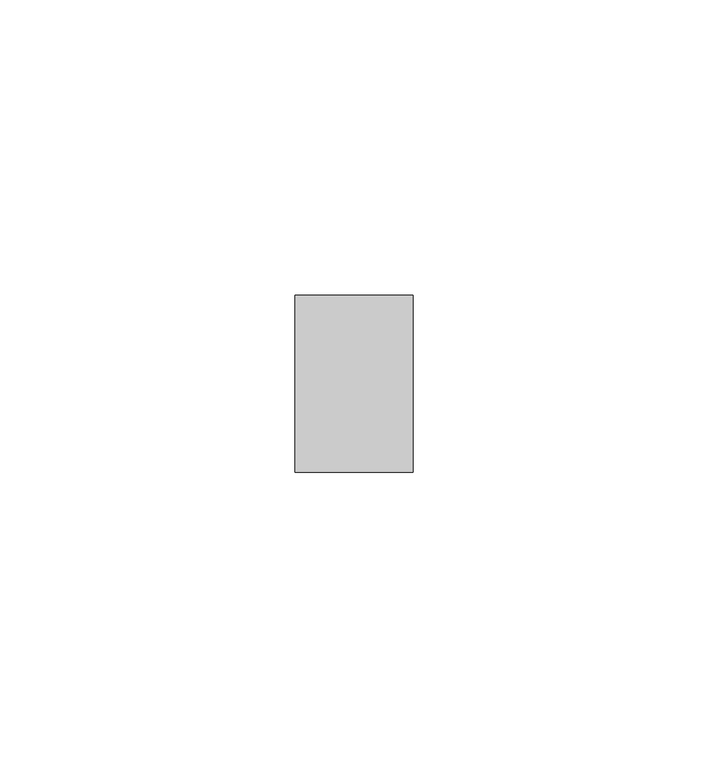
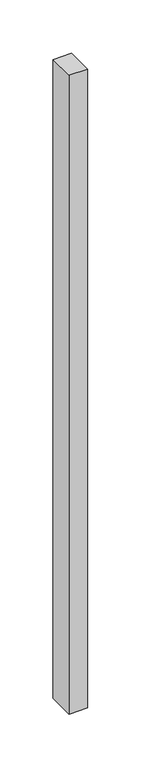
"""IFC4 building model written with IfcOpenShell, lengths in millimetres: member geometry, Прямоугольный импост : Квадрат 10 мм - Зазор между навесными плитами."""

from ifc_helpers import new_model, si_unit, frame, origin, place, context, project, spatial, polyline, outline, extrude, source, transform, mapped, element, save


def member_b21f5c25(model_context):
    return source(origin(), model_context, "Body", "SweptSolid", [
        extrude(outline(polyline([(0.0, 15.0), (0.0, -15.0), (-20.0, -15.0), (-20.0, 15.0), (0.0, 15.0)])), frame((0.0, 0.0, -730.4633312), z_axis=(0.0, 0.0, 1.0), x_axis=(1.0, 0.0, 0.0)), (0.0, 0.0, 1.0), 730.4633312),
    ])


if __name__ == "__main__":
    model = new_model("IFC4")
    model_context = context("Model", 3, world=origin())
    ifc_project = project(units=[si_unit("LENGTHUNIT", "METRE", prefix="MILLI")], contexts=[model_context])
    site = spatial("IfcSite", under=ifc_project)
    building = spatial("IfcBuilding", under=site)
    placement = place(None, origin())
    member_shape = member_b21f5c25(model_context)
    element("IfcMember", 1, ObjectType="Прямоугольный импост : Квадрат 10 мм - Зазор между навесными плитами", at=placement, inside=building, context=model_context, shape_type="MappedRepresentation", body=[
        mapped(member_shape, transform((0.0, 0.0, 0.0), x_axis=(1.0, 0.0, 0.0), y_axis=(0.0, 1.0, 0.0), z_axis=(0.0, 0.0, 1.0))),
    ])
    save(model, "model.ifc")
